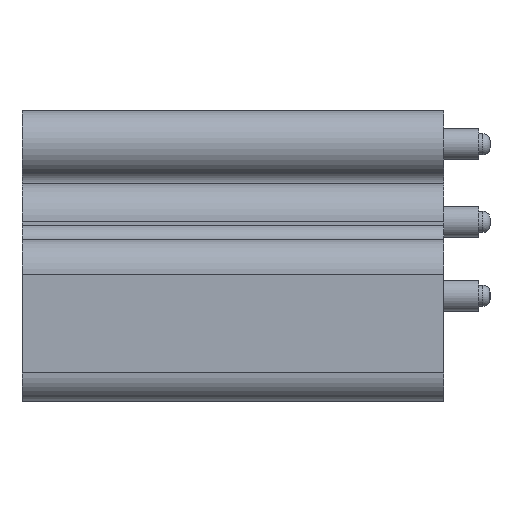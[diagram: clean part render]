
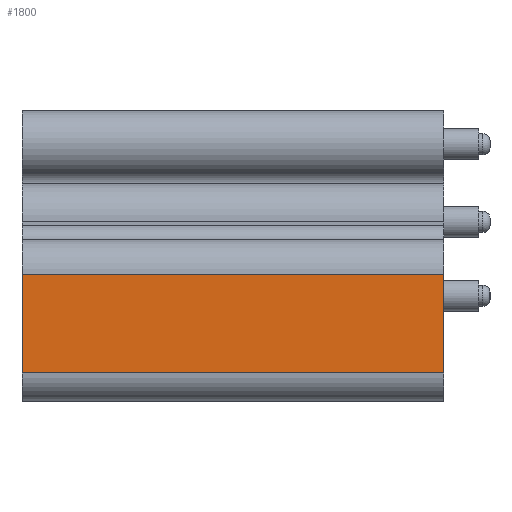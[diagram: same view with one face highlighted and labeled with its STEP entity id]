
A CAD part, left-side view. The second image highlights one B-rep face of the part: STEP entity #1800.
In plain terms, the highlighted planar face has unit normal (-1, 0, 0).
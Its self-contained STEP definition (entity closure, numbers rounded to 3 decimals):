
#627 = LINE ( 'NONE', #628, #2013 ) ;
#628 = CARTESIAN_POINT ( 'NONE',  ( -35.5, -30., -5.75 ) ) ;
#629 = DIRECTION ( 'NONE',  ( 0., -1., 0. ) ) ;
#633 = LINE ( 'NONE', #634, #2014 ) ;
#634 = CARTESIAN_POINT ( 'NONE',  ( -35.5, -30., 1.25 ) ) ;
#635 = DIRECTION ( 'NONE',  ( 0., 1., 0. ) ) ;
#660 = LINE ( 'NONE', #661, #1457 ) ;
#661 = CARTESIAN_POINT ( 'NONE',  ( -35.5, 0., 7.75 ) ) ;
#662 = DIRECTION ( 'NONE',  ( 0., 0., 1. ) ) ;
#908 = PLANE ( 'NONE',  #2065 ) ;
#909 = CARTESIAN_POINT ( 'NONE',  ( -35.5, -30., 7.75 ) ) ;
#910 = DIRECTION ( 'NONE',  ( -1., 0., 0. ) ) ;
#911 = DIRECTION ( 'NONE',  ( 0., 0., 1. ) ) ;
#1006 = LINE ( 'NONE', #1007, #2204 ) ;
#1007 = CARTESIAN_POINT ( 'NONE',  ( -35.5, -30., 7.75 ) ) ;
#1008 = DIRECTION ( 'NONE',  ( 0., 0., 1. ) ) ;
#1234 = CARTESIAN_POINT ( 'NONE',  ( -35.5, 0., 1.25 ) ) ;
#1235 = CARTESIAN_POINT ( 'NONE',  ( -35.5, 0., -5.75 ) ) ;
#1299 = CARTESIAN_POINT ( 'NONE',  ( -35.5, -30., -5.75 ) ) ;
#1300 = CARTESIAN_POINT ( 'NONE',  ( -35.5, -30., 1.25 ) ) ;
#1457 = VECTOR ( 'NONE', #662, 1000. ) ;
#1711 = EDGE_CURVE ( 'NONE', #3275, #3339, #627, .T. ) ;
#1713 = EDGE_CURVE ( 'NONE', #3340, #3274, #633, .T. ) ;
#1722 = EDGE_CURVE ( 'NONE', #3275, #3274, #660, .T. ) ;
#1800 = ADVANCED_FACE ( 'NONE', ( #2062 ), #908, .T. ) ;
#1900 = EDGE_CURVE ( 'NONE', #3339, #3340, #1006, .T. ) ;
#2013 = VECTOR ( 'NONE', #629, 1000. ) ;
#2014 = VECTOR ( 'NONE', #635, 1000. ) ;
#2062 = FACE_OUTER_BOUND ( 'NONE', #2740, .T. ) ;
#2065 = AXIS2_PLACEMENT_3D ( 'NONE', #909, #910, #911 ) ;
#2204 = VECTOR ( 'NONE', #1008, 1000. ) ;
#2740 = EDGE_LOOP ( 'NONE', ( #2919, #2920, #2917, #2921 ) ) ;
#2917 = ORIENTED_EDGE ( 'NONE', *, *, #1722, .F. ) ;
#2919 = ORIENTED_EDGE ( 'NONE', *, *, #1900, .T. ) ;
#2920 = ORIENTED_EDGE ( 'NONE', *, *, #1713, .T. ) ;
#2921 = ORIENTED_EDGE ( 'NONE', *, *, #1711, .T. ) ;
#3274 = VERTEX_POINT ( 'NONE', #1234 ) ;
#3275 = VERTEX_POINT ( 'NONE', #1235 ) ;
#3339 = VERTEX_POINT ( 'NONE', #1299 ) ;
#3340 = VERTEX_POINT ( 'NONE', #1300 ) ;
